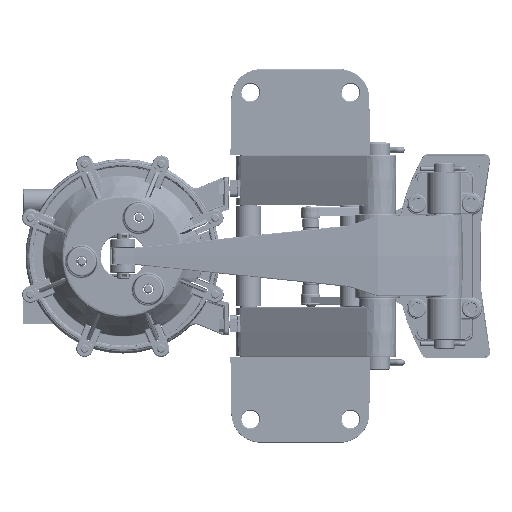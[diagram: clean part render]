
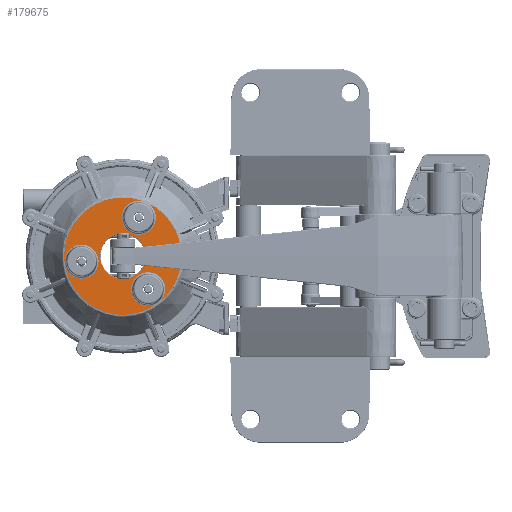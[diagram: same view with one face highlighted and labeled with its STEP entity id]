
A CAD part, top view. The second image highlights one B-rep face of the part: STEP entity #179675.
In plain terms, the highlighted planar face has unit normal (0, 0, 1).
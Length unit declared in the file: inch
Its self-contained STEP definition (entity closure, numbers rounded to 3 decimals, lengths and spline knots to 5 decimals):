
#10891 = DIRECTION ( 'NONE',  ( 0.924, -0.383, 0. ) ) ;
#13991 = CARTESIAN_POINT ( 'NONE',  ( -8.19784, 0., 1.87 ) ) ;
#16513 = CARTESIAN_POINT ( 'NONE',  ( -7.56508, -0.2621, 1.87 ) ) ;
#17772 = CARTESIAN_POINT ( 'NONE',  ( -7.71949, 1.15485, 1.87 ) ) ;
#29107 = DIRECTION ( 'NONE',  ( 0., 0., -1. ) ) ;
#29283 = AXIS2_PLACEMENT_3D ( 'NONE', #82564, #189586, #97953 ) ;
#29379 = DIRECTION ( 'NONE',  ( 0.924, -0.383, 0. ) ) ;
#32201 = PLANE ( 'NONE',  #141277 ) ;
#32243 = EDGE_CURVE ( 'NONE', #180343, #151230, #120709, .T. ) ;
#32360 = CIRCLE ( 'NONE', #50904, 0.51106 ) ;
#33089 = DIRECTION ( 'NONE',  ( 0.924, -0.383, 0. ) ) ;
#33573 = ORIENTED_EDGE ( 'NONE', *, *, #32243, .T. ) ;
#36921 = VERTEX_POINT ( 'NONE', #51595 ) ;
#37562 = VERTEX_POINT ( 'NONE', #43303 ) ;
#42186 = FACE_BOUND ( 'NONE', #83671, .T. ) ;
#43303 = CARTESIAN_POINT ( 'NONE',  ( -7.1662, -1.42518, 1.87 ) ) ;
#45902 = DIRECTION ( 'NONE',  ( 0., 0., -1. ) ) ;
#48310 = DIRECTION ( 'NONE',  ( 0., 0., -1. ) ) ;
#48565 = VERTEX_POINT ( 'NONE', #156459 ) ;
#50904 = AXIS2_PLACEMENT_3D ( 'NONE', #120723, #29107, #136060 ) ;
#51595 = CARTESIAN_POINT ( 'NONE',  ( -7.08823, -1.36535, 1.87 ) ) ;
#55233 = AXIS2_PLACEMENT_3D ( 'NONE', #68774, #175739, #84147 ) ;
#58259 = EDGE_CURVE ( 'NONE', #36921, #48565, #87639, .T. ) ;
#59736 = AXIS2_PLACEMENT_3D ( 'NONE', #13991, #121016, #29379 ) ;
#61393 = ORIENTED_EDGE ( 'NONE', *, *, #112548, .T. ) ;
#68774 = CARTESIAN_POINT ( 'NONE',  ( -8.19784, 0., 1.87 ) ) ;
#70310 = EDGE_CURVE ( 'NONE', #157136, #37562, #112899, .T. ) ;
#81161 = EDGE_CURVE ( 'NONE', #151230, #157136, #191162, .T. ) ;
#82564 = CARTESIAN_POINT ( 'NONE',  ( -9.43715, -0.16316, 1.87 ) ) ;
#83671 = EDGE_LOOP ( 'NONE', ( #195576 ) ) ;
#84018 = ORIENTED_EDGE ( 'NONE', *, *, #130537, .T. ) ;
#84147 = DIRECTION ( 'NONE',  ( 0.924, -0.383, 0. ) ) ;
#87639 = CIRCLE ( 'NONE', #171931, 1.75938 ) ;
#92517 = CIRCLE ( 'NONE', #150589, 0.68489 ) ;
#95201 = EDGE_LOOP ( 'NONE', ( #132739, #61393, #33573, #100086, #141436, #84018 ) ) ;
#97953 = DIRECTION ( 'NONE',  ( 0.924, -0.383, 0. ) ) ;
#100086 = ORIENTED_EDGE ( 'NONE', *, *, #81161, .T. ) ;
#102052 = AXIS2_PLACEMENT_3D ( 'NONE', #17772, #124814, #33089 ) ;
#102467 = DIRECTION ( 'NONE',  ( 0., 0., 1. ) ) ;
#112548 = EDGE_CURVE ( 'NONE', #48565, #180343, #113824, .T. ) ;
#112899 = CIRCLE ( 'NONE', #55233, 1.75938 ) ;
#113824 = CIRCLE ( 'NONE', #102052, 0.51106 ) ;
#120709 = CIRCLE ( 'NONE', #59736, 1.75938 ) ;
#120723 = CARTESIAN_POINT ( 'NONE',  ( -7.43689, -0.99169, 1.87 ) ) ;
#121016 = DIRECTION ( 'NONE',  ( 0., 0., 1. ) ) ;
#124814 = DIRECTION ( 'NONE',  ( 0., 0., -1. ) ) ;
#126321 = CARTESIAN_POINT ( 'NONE',  ( -7.57022, 1.64363, 1.87 ) ) ;
#130537 = EDGE_CURVE ( 'NONE', #37562, #36921, #32360, .T. ) ;
#132659 = EDGE_CURVE ( 'NONE', #157762, #157762, #92517, .T. ) ;
#132739 = ORIENTED_EDGE ( 'NONE', *, *, #58259, .T. ) ;
#136060 = DIRECTION ( 'NONE',  ( 0.924, -0.383, 0. ) ) ;
#137469 = CARTESIAN_POINT ( 'NONE',  ( -8.19784, 0., 1.87 ) ) ;
#139867 = CARTESIAN_POINT ( 'NONE',  ( -8.88667, -1.66298, 1.87 ) ) ;
#141277 = AXIS2_PLACEMENT_3D ( 'NONE', #139867, #48310, #155253 ) ;
#141436 = ORIENTED_EDGE ( 'NONE', *, *, #70310, .T. ) ;
#150589 = AXIS2_PLACEMENT_3D ( 'NONE', #137469, #45902, #152881 ) ;
#151230 = VERTEX_POINT ( 'NONE', #158292 ) ;
#152881 = DIRECTION ( 'NONE',  ( 0.924, -0.383, 0. ) ) ;
#155253 = DIRECTION ( 'NONE',  ( 0.924, -0.383, 0. ) ) ;
#156459 = CARTESIAN_POINT ( 'NONE',  ( -7.47942, 1.60602, 1.87 ) ) ;
#157136 = VERTEX_POINT ( 'NONE', #163961 ) ;
#157762 = VERTEX_POINT ( 'NONE', #16513 ) ;
#158292 = CARTESIAN_POINT ( 'NONE',  ( -9.94791, -0.18083, 1.87 ) ) ;
#159494 = FACE_OUTER_BOUND ( 'NONE', #95201, .T. ) ;
#163961 = CARTESIAN_POINT ( 'NONE',  ( -9.93508, -0.27828, 1.87 ) ) ;
#171931 = AXIS2_PLACEMENT_3D ( 'NONE', #194056, #102467, #10891 ) ;
#175739 = DIRECTION ( 'NONE',  ( 0., 0., 1. ) ) ;
#179675 = ADVANCED_FACE ( 'NONE', ( #159494, #42186 ), #32201, .F. ) ;
#180343 = VERTEX_POINT ( 'NONE', #126321 ) ;
#189586 = DIRECTION ( 'NONE',  ( 0., 0., -1. ) ) ;
#191162 = CIRCLE ( 'NONE', #29283, 0.51106 ) ;
#194056 = CARTESIAN_POINT ( 'NONE',  ( -8.19784, 0., 1.87 ) ) ;
#195576 = ORIENTED_EDGE ( 'NONE', *, *, #132659, .T. ) ;
